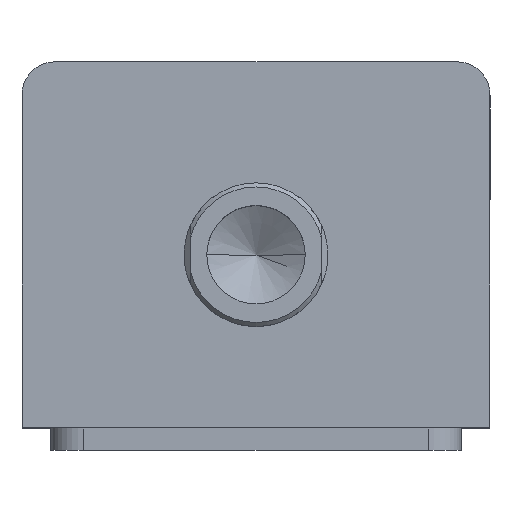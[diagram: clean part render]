
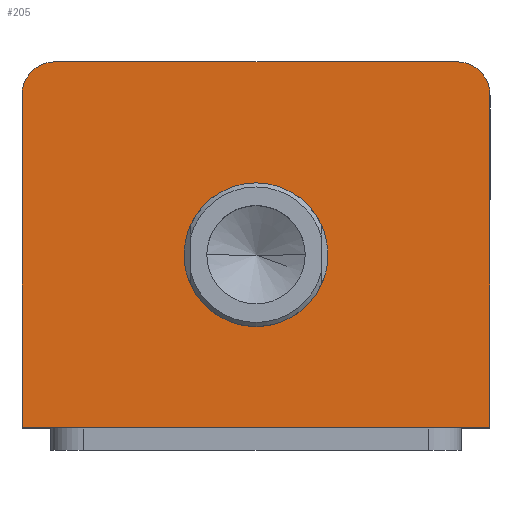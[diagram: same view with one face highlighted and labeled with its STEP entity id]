
A CAD part, top view. The second image highlights one B-rep face of the part: STEP entity #205.
In plain terms, the highlighted planar face has unit normal (0, 0, 1).
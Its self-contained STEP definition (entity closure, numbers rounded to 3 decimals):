
#3 = FACE_OUTER_BOUND ( 'NONE', #1193, .T. ) ;
#54 = VERTEX_POINT ( 'NONE', #775 ) ;
#138 = VECTOR ( 'NONE', #361, 1000. ) ;
#139 = LINE ( 'NONE', #347, #138 ) ;
#149 = CIRCLE ( 'NONE', #2080, 17.5 ) ;
#205 = ADVANCED_FACE ( 'NONE', ( #1730, #3 ), #617, .T. ) ;
#272 = CARTESIAN_POINT ( 'NONE',  ( -49., 44.5, 167. ) ) ;
#304 = CARTESIAN_POINT ( 'NONE',  ( 49., 44.5, 167. ) ) ;
#347 = CARTESIAN_POINT ( 'NONE',  ( -57., -44.5, 167. ) ) ;
#357 = DIRECTION ( 'NONE',  ( 1., 0., 0. ) ) ;
#358 = DIRECTION ( 'NONE',  ( 0., 0., 1. ) ) ;
#360 = CARTESIAN_POINT ( 'NONE',  ( 0., -2.5, 167. ) ) ;
#361 = DIRECTION ( 'NONE',  ( 1., 0., 0. ) ) ;
#529 = EDGE_CURVE ( 'NONE', #870, #856, #149, .T. ) ;
#570 = EDGE_CURVE ( 'NONE', #871, #54, #139, .T. ) ;
#609 = DIRECTION ( 'NONE',  ( 1., 0., 0. ) ) ;
#610 = DIRECTION ( 'NONE',  ( 0., 0., 1. ) ) ;
#615 = CARTESIAN_POINT ( 'NONE',  ( 0., 0., 167. ) ) ;
#617 = PLANE ( 'NONE',  #2037 ) ;
#775 = CARTESIAN_POINT ( 'NONE',  ( 57., -44.5, 167. ) ) ;
#784 = CIRCLE ( 'NONE', #2102, 17.5 ) ;
#809 = VERTEX_POINT ( 'NONE', #304 ) ;
#812 = VERTEX_POINT ( 'NONE', #272 ) ;
#856 = VERTEX_POINT ( 'NONE', #3430 ) ;
#870 = VERTEX_POINT ( 'NONE', #3390 ) ;
#871 = VERTEX_POINT ( 'NONE', #3388 ) ;
#877 = VERTEX_POINT ( 'NONE', #3377 ) ;
#890 = VERTEX_POINT ( 'NONE', #3345 ) ;
#1184 = EDGE_LOOP ( 'NONE', ( #1229, #1230 ) ) ;
#1193 = EDGE_LOOP ( 'NONE', ( #1231, #1232, #1233, #1234, #1235, #1236 ) ) ;
#1229 = ORIENTED_EDGE ( 'NONE', *, *, #529, .F. ) ;
#1230 = ORIENTED_EDGE ( 'NONE', *, *, #1440, .F. ) ;
#1231 = ORIENTED_EDGE ( 'NONE', *, *, #1936, .T. ) ;
#1232 = ORIENTED_EDGE ( 'NONE', *, *, #1909, .T. ) ;
#1233 = ORIENTED_EDGE ( 'NONE', *, *, #1920, .T. ) ;
#1234 = ORIENTED_EDGE ( 'NONE', *, *, #570, .T. ) ;
#1235 = ORIENTED_EDGE ( 'NONE', *, *, #1892, .T. ) ;
#1236 = ORIENTED_EDGE ( 'NONE', *, *, #1908, .T. ) ;
#1440 = EDGE_CURVE ( 'NONE', #856, #870, #784, .T. ) ;
#1730 = FACE_BOUND ( 'NONE', #1184, .T. ) ;
#1892 = EDGE_CURVE ( 'NONE', #54, #890, #2306, .T. ) ;
#1908 = EDGE_CURVE ( 'NONE', #890, #809, #2361, .T. ) ;
#1909 = EDGE_CURVE ( 'NONE', #812, #877, #2362, .T. ) ;
#1920 = EDGE_CURVE ( 'NONE', #877, #871, #2392, .T. ) ;
#1936 = EDGE_CURVE ( 'NONE', #809, #812, #2438, .T. ) ;
#2037 = AXIS2_PLACEMENT_3D ( 'NONE', #615, #610, #609 ) ;
#2080 = AXIS2_PLACEMENT_3D ( 'NONE', #360, #358, #357 ) ;
#2102 = AXIS2_PLACEMENT_3D ( 'NONE', #3324, #3323, #3322 ) ;
#2129 = AXIS2_PLACEMENT_3D ( 'NONE', #3006, #3004, #3003 ) ;
#2130 = AXIS2_PLACEMENT_3D ( 'NONE', #3000, #2999, #2998 ) ;
#2306 = LINE ( 'NONE', #2932, #2310 ) ;
#2310 = VECTOR ( 'NONE', #2892, 1000. ) ;
#2361 = CIRCLE ( 'NONE', #2129, 8. ) ;
#2362 = CIRCLE ( 'NONE', #2130, 8. ) ;
#2392 = LINE ( 'NONE', #2958, #2398 ) ;
#2398 = VECTOR ( 'NONE', #2957, 1000. ) ;
#2438 = LINE ( 'NONE', #2898, #2441 ) ;
#2441 = VECTOR ( 'NONE', #2897, 1000. ) ;
#2892 = DIRECTION ( 'NONE',  ( 0., 1., 0. ) ) ;
#2897 = DIRECTION ( 'NONE',  ( -1., 0., 0. ) ) ;
#2898 = CARTESIAN_POINT ( 'NONE',  ( -57., 44.5, 167. ) ) ;
#2932 = CARTESIAN_POINT ( 'NONE',  ( 57., 44.5, 167. ) ) ;
#2957 = DIRECTION ( 'NONE',  ( 0., -1., 0. ) ) ;
#2958 = CARTESIAN_POINT ( 'NONE',  ( -57., 44.5, 167. ) ) ;
#2998 = DIRECTION ( 'NONE',  ( 1., 0., 0. ) ) ;
#2999 = DIRECTION ( 'NONE',  ( 0., 0., 1. ) ) ;
#3000 = CARTESIAN_POINT ( 'NONE',  ( -49., 36.5, 167. ) ) ;
#3003 = DIRECTION ( 'NONE',  ( 1., 0., 0. ) ) ;
#3004 = DIRECTION ( 'NONE',  ( 0., 0., 1. ) ) ;
#3006 = CARTESIAN_POINT ( 'NONE',  ( 49., 36.5, 167. ) ) ;
#3322 = DIRECTION ( 'NONE',  ( 1., 0., 0. ) ) ;
#3323 = DIRECTION ( 'NONE',  ( 0., 0., 1. ) ) ;
#3324 = CARTESIAN_POINT ( 'NONE',  ( 0., -2.5, 167. ) ) ;
#3345 = CARTESIAN_POINT ( 'NONE',  ( 57., 36.5, 167. ) ) ;
#3377 = CARTESIAN_POINT ( 'NONE',  ( -57., 36.5, 167. ) ) ;
#3388 = CARTESIAN_POINT ( 'NONE',  ( -57., -44.5, 167. ) ) ;
#3390 = CARTESIAN_POINT ( 'NONE',  ( 17.5, -2.5, 167. ) ) ;
#3430 = CARTESIAN_POINT ( 'NONE',  ( -17.5, -2.5, 167. ) ) ;
